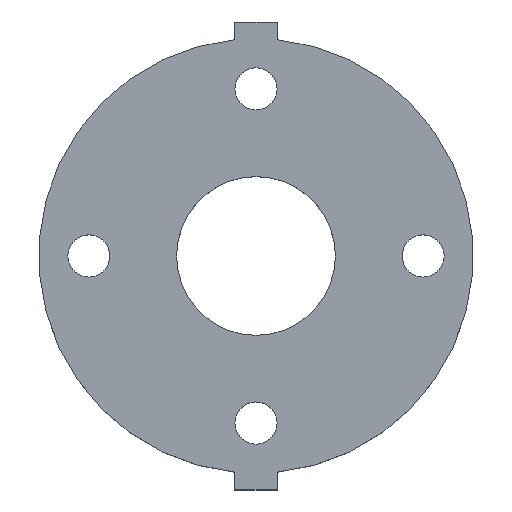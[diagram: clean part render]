
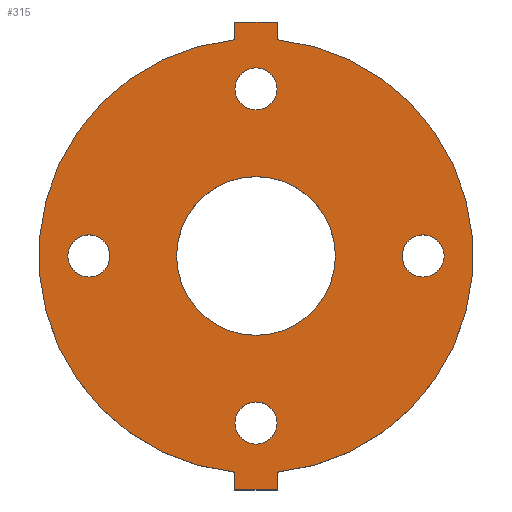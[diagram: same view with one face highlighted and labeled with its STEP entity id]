
A CAD part, top view. The second image highlights one B-rep face of the part: STEP entity #315.
In plain terms, the highlighted planar face has unit normal (0, 0, 1).
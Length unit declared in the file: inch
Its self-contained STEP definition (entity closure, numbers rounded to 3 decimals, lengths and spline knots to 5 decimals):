
#14=FACE_BOUND('',#61,.T.);
#15=FACE_BOUND('',#62,.T.);
#16=FACE_BOUND('',#63,.T.);
#17=FACE_BOUND('',#64,.T.);
#18=FACE_BOUND('',#65,.T.);
#30=PLANE('',#364);
#45=FACE_OUTER_BOUND('',#60,.T.);
#60=EDGE_LOOP('',(#253,#254,#255,#256,#257,#258,#259,#260));
#61=EDGE_LOOP('',(#261));
#62=EDGE_LOOP('',(#262));
#63=EDGE_LOOP('',(#263));
#64=EDGE_LOOP('',(#264));
#65=EDGE_LOOP('',(#265));
#83=LINE('',#505,#108);
#85=LINE('',#510,#110);
#88=LINE('',#514,#113);
#91=LINE('',#522,#116);
#94=LINE('',#526,#119);
#96=LINE('',#529,#121);
#108=VECTOR('',#423,0.3937);
#110=VECTOR('',#427,0.3937);
#113=VECTOR('',#432,0.3937);
#116=VECTOR('',#437,0.3937);
#119=VECTOR('',#442,0.3937);
#121=VECTOR('',#446,0.3937);
#122=CIRCLE('',#338,0.315);
#124=CIRCLE('',#341,0.315);
#126=CIRCLE('',#344,0.315);
#128=CIRCLE('',#347,0.315);
#131=CIRCLE('',#351,1.1875);
#133=CIRCLE('',#354,3.25);
#134=CIRCLE('',#356,3.25);
#136=VERTEX_POINT('',#453);
#138=VERTEX_POINT('',#459);
#140=VERTEX_POINT('',#465);
#142=VERTEX_POINT('',#471);
#145=VERTEX_POINT('',#479);
#147=VERTEX_POINT('',#484);
#149=VERTEX_POINT('',#488);
#151=VERTEX_POINT('',#493);
#152=VERTEX_POINT('',#495);
#155=VERTEX_POINT('',#503);
#157=VERTEX_POINT('',#509);
#160=VERTEX_POINT('',#519);
#161=VERTEX_POINT('',#521);
#162=EDGE_CURVE('',#136,#136,#122,.T.);
#165=EDGE_CURVE('',#138,#138,#124,.T.);
#168=EDGE_CURVE('',#140,#140,#126,.T.);
#171=EDGE_CURVE('',#142,#142,#128,.T.);
#176=EDGE_CURVE('',#145,#145,#131,.T.);
#180=EDGE_CURVE('',#147,#149,#133,.T.);
#182=EDGE_CURVE('',#152,#151,#134,.T.);
#187=EDGE_CURVE('',#149,#155,#83,.T.);
#189=EDGE_CURVE('',#157,#152,#85,.T.);
#192=EDGE_CURVE('',#155,#157,#88,.T.);
#195=EDGE_CURVE('',#161,#160,#91,.T.);
#198=EDGE_CURVE('',#151,#161,#94,.T.);
#200=EDGE_CURVE('',#160,#147,#96,.T.);
#253=ORIENTED_EDGE('',*,*,#200,.T.);
#254=ORIENTED_EDGE('',*,*,#180,.T.);
#255=ORIENTED_EDGE('',*,*,#187,.T.);
#256=ORIENTED_EDGE('',*,*,#192,.T.);
#257=ORIENTED_EDGE('',*,*,#189,.T.);
#258=ORIENTED_EDGE('',*,*,#182,.T.);
#259=ORIENTED_EDGE('',*,*,#198,.T.);
#260=ORIENTED_EDGE('',*,*,#195,.T.);
#261=ORIENTED_EDGE('',*,*,#162,.T.);
#262=ORIENTED_EDGE('',*,*,#165,.T.);
#263=ORIENTED_EDGE('',*,*,#168,.T.);
#264=ORIENTED_EDGE('',*,*,#171,.T.);
#265=ORIENTED_EDGE('',*,*,#176,.T.);
#315=ADVANCED_FACE('',(#45,#14,#15,#16,#17,#18),#30,.T.);
#338=AXIS2_PLACEMENT_3D('',#454,#370,#371);
#341=AXIS2_PLACEMENT_3D('',#460,#377,#378);
#344=AXIS2_PLACEMENT_3D('',#466,#384,#385);
#347=AXIS2_PLACEMENT_3D('',#472,#391,#392);
#351=AXIS2_PLACEMENT_3D('',#481,#401,#402);
#354=AXIS2_PLACEMENT_3D('',#490,#409,#410);
#356=AXIS2_PLACEMENT_3D('',#496,#414,#415);
#364=AXIS2_PLACEMENT_3D('',#530,#447,#448);
#370=DIRECTION('center_axis',(0.,0.,-1.));
#371=DIRECTION('ref_axis',(-1.,0.,0.));
#377=DIRECTION('center_axis',(0.,0.,-1.));
#378=DIRECTION('ref_axis',(0.,1.,0.));
#384=DIRECTION('center_axis',(0.,0.,-1.));
#385=DIRECTION('ref_axis',(1.,0.,0.));
#391=DIRECTION('center_axis',(0.,0.,-1.));
#392=DIRECTION('ref_axis',(0.,-1.,0.));
#401=DIRECTION('center_axis',(0.,0.,-1.));
#402=DIRECTION('ref_axis',(0.,-1.,0.));
#409=DIRECTION('center_axis',(0.,0.,1.));
#410=DIRECTION('ref_axis',(0.,1.,0.));
#414=DIRECTION('center_axis',(0.,0.,1.));
#415=DIRECTION('ref_axis',(0.,1.,0.));
#423=DIRECTION('',(0.,-1.,0.));
#427=DIRECTION('',(0.,1.,0.));
#432=DIRECTION('',(1.,0.,0.));
#437=DIRECTION('',(-1.,0.,0.));
#442=DIRECTION('',(0.,1.,0.));
#446=DIRECTION('',(0.,-1.,0.));
#447=DIRECTION('center_axis',(0.,0.,1.));
#448=DIRECTION('ref_axis',(0.,1.,0.));
#453=CARTESIAN_POINT('',(0.315,2.5,0.88));
#454=CARTESIAN_POINT('Origin',(0.,2.5,0.88));
#459=CARTESIAN_POINT('',(2.5,-0.315,0.88));
#460=CARTESIAN_POINT('Origin',(2.5,0.,0.88));
#465=CARTESIAN_POINT('',(-0.315,-2.5,0.88));
#466=CARTESIAN_POINT('Origin',(0.,-2.5,0.88));
#471=CARTESIAN_POINT('',(-2.5,0.315,0.88));
#472=CARTESIAN_POINT('Origin',(-2.5,0.,0.88));
#479=CARTESIAN_POINT('',(0.,1.1875,0.88));
#481=CARTESIAN_POINT('Origin',(0.,0.,0.88));
#484=CARTESIAN_POINT('',(-0.32,3.23421,0.88));
#488=CARTESIAN_POINT('',(-0.32,-3.23421,0.88));
#490=CARTESIAN_POINT('Origin',(0.,0.,0.88));
#493=CARTESIAN_POINT('',(0.32,3.23421,0.88));
#495=CARTESIAN_POINT('',(0.32,-3.23421,0.88));
#496=CARTESIAN_POINT('Origin',(0.,0.,0.88));
#503=CARTESIAN_POINT('',(-0.32,-3.5,0.88));
#505=CARTESIAN_POINT('',(-0.32,-3.23421,0.88));
#509=CARTESIAN_POINT('',(0.32,-3.5,0.88));
#510=CARTESIAN_POINT('',(0.32,-3.5,0.88));
#514=CARTESIAN_POINT('',(-0.32,-3.5,0.88));
#519=CARTESIAN_POINT('',(-0.32,3.5,0.88));
#521=CARTESIAN_POINT('',(0.32,3.5,0.88));
#522=CARTESIAN_POINT('',(0.32,3.5,0.88));
#526=CARTESIAN_POINT('',(0.32,3.23421,0.88));
#529=CARTESIAN_POINT('',(-0.32,3.5,0.88));
#530=CARTESIAN_POINT('Origin',(0.,3.38297,0.88));
